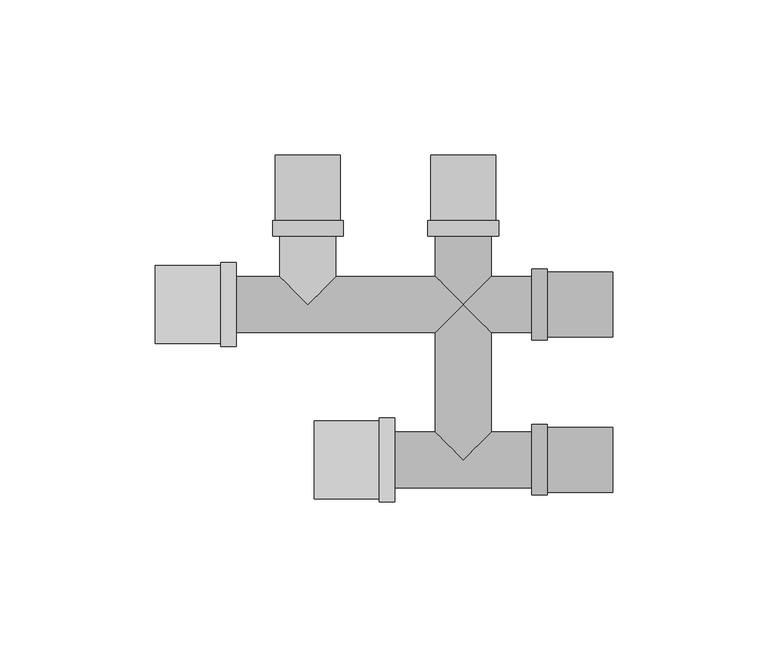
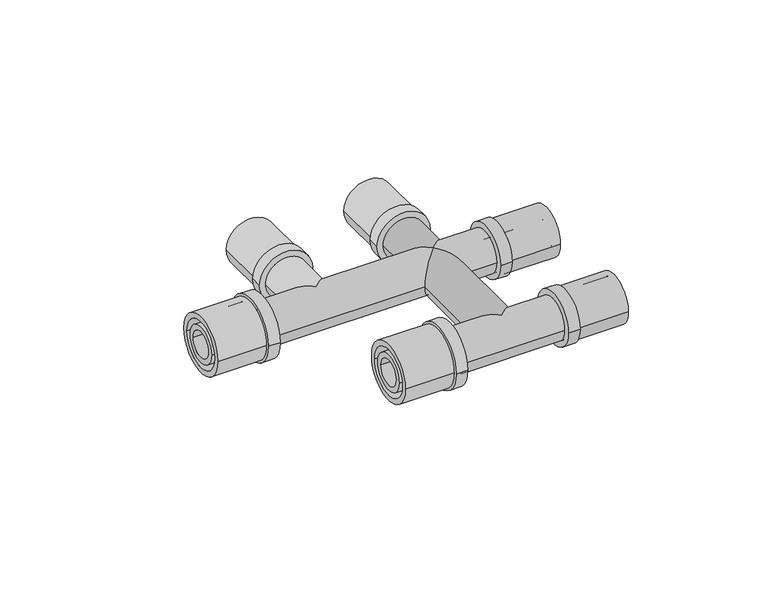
"""IFC4 building model written with IfcOpenShell, lengths in millimetres: pipe fitting geometry, PIF_Tigris_Crossfitting_Wavin_(multiport) : Tigris M5 Crossfitting 20x16x16."""

from ifc_helpers import new_model, si_unit, point, frame, frame_2d, origin, origin_2d, place, context, project, spatial, circle_curve, ellipse_curve, trimmed, segment, composite_curve, outline, extrude, source, transform, mapped, element, save
from ifc_brep_helpers import plane_surface, cylinder_surface, advanced_brep


def pipe_fitting_6edcd083(model_context):
    return source(origin(), model_context, "Body", "SolidModel", [
        extrude(outline(composite_curve([segment(trimmed(circle_curve(frame_2d((-50.0, 0.0)), 13.45), [point((-63.45, 0.0))], [point((-36.55, 0.0))], False, "CARTESIAN"), True, "CONTINUOUS"), segment(trimmed(circle_curve(frame_2d((-50.0, 0.0)), 13.45), [point((-36.55, 0.0))], [point((-63.45, 0.0))], False, "CARTESIAN"), True, "CONTINUOUS")], self_intersect=False)), frame((-27.0, 0.0, 0.0), z_axis=(1.0, 0.0, 0.0), x_axis=(0.0, 1.0, 0.0)), (0.0, 0.0, 1.0), 5.0),
        extrude(outline(composite_curve([segment(trimmed(circle_curve(frame_2d((-50.0, 0.0)), 12.5), [point((-62.5, 0.0))], [point((-37.5, 0.0))], False, "CARTESIAN"), True, "CONTINUOUS"), segment(trimmed(circle_curve(frame_2d((-50.0, 0.0)), 12.5), [point((-37.5, 0.0))], [point((-62.5, 0.0))], False, "CARTESIAN"), True, "CONTINUOUS")], self_intersect=False), holes=[composite_curve([segment(trimmed(circle_curve(frame_2d((-50.0, 0.0)), 10.2), [point((-60.2, 0.0))], [point((-39.8, 0.0))], True, "CARTESIAN"), True, "CONTINUOUS"), segment(trimmed(circle_curve(frame_2d((-50.0, 0.0)), 10.2), [point((-39.8, 0.0))], [point((-60.2, 0.0))], True, "CARTESIAN"), True, "CONTINUOUS")], self_intersect=False)]), frame((-48.0, 0.0, 0.0), z_axis=(1.0, 0.0, 0.0), x_axis=(0.0, 1.0, 0.0)), (0.0, 0.0, 1.0), 21.0),
        extrude(outline(composite_curve([segment(trimmed(circle_curve(frame_2d((-50.0, 0.0)), 7.9), [point((-57.9, 0.0))], [point((-42.1, 0.0))], False, "CARTESIAN"), True, "CONTINUOUS"), segment(trimmed(circle_curve(frame_2d((-50.0, 0.0)), 7.9), [point((-42.1, 0.0))], [point((-57.9, 0.0))], False, "CARTESIAN"), True, "CONTINUOUS")], self_intersect=False), holes=[composite_curve([segment(trimmed(circle_curve(frame_2d((-50.0, 0.0)), 5.6), [point((-55.6, 0.0))], [point((-44.4, 0.0))], True, "CARTESIAN"), True, "CONTINUOUS"), segment(trimmed(circle_curve(frame_2d((-50.0, 0.0)), 5.6), [point((-44.4, 0.0))], [point((-55.6, 0.0))], True, "CARTESIAN"), True, "CONTINUOUS")], self_intersect=False)]), frame((-48.0, 0.0, 0.0), z_axis=(1.0, 0.0, 0.0), x_axis=(0.0, 1.0, 0.0)), (0.0, 0.0, 1.0), 26.0),
        extrude(outline(composite_curve([segment(trimmed(circle_curve(frame_2d((-50.0, 0.0)), 11.35), [point((-38.65, 0.0))], [point((-61.35, 0.0))], False, "CARTESIAN"), True, "CONTINUOUS"), segment(trimmed(circle_curve(frame_2d((-50.0, 0.0)), 11.35), [point((-61.35, 0.0))], [point((-38.65, 0.0))], False, "CARTESIAN"), True, "CONTINUOUS")], self_intersect=False)), frame((22.0, 0.0, 0.0), z_axis=(1.0, 0.0, 0.0), x_axis=(0.0, 1.0, 0.0)), (0.0, 0.0, 1.0), 5.0),
        extrude(outline(composite_curve([segment(trimmed(circle_curve(frame_2d((-50.0, 0.0)), 10.5), [point((-39.5, 0.0))], [point((-60.5, 0.0))], False, "CARTESIAN"), True, "CONTINUOUS"), segment(trimmed(circle_curve(frame_2d((-50.0, 0.0)), 10.5), [point((-60.5, 0.0))], [point((-39.5, 0.0))], False, "CARTESIAN"), True, "CONTINUOUS")], self_intersect=False), holes=[composite_curve([segment(trimmed(circle_curve(frame_2d((-50.0, 0.0)), 8.2), [point((-41.8, 0.0))], [point((-58.2, 0.0))], True, "CARTESIAN"), True, "CONTINUOUS"), segment(trimmed(circle_curve(frame_2d((-50.0, 0.0)), 8.2), [point((-58.2, 0.0))], [point((-41.8, 0.0))], True, "CARTESIAN"), True, "CONTINUOUS")], self_intersect=False)]), frame((27.0, 0.0, 0.0), z_axis=(1.0, 0.0, 0.0), x_axis=(0.0, 1.0, 0.0)), (0.0, 0.0, 1.0), 21.0),
        extrude(outline(composite_curve([segment(trimmed(circle_curve(frame_2d((-50.0, 0.0)), 6.1), [point((-43.9, 0.0))], [point((-56.1, 0.0))], False, "CARTESIAN"), True, "CONTINUOUS"), segment(trimmed(circle_curve(frame_2d((-50.0, 0.0)), 6.1), [point((-56.1, 0.0))], [point((-43.9, 0.0))], False, "CARTESIAN"), True, "CONTINUOUS")], self_intersect=False), holes=[composite_curve([segment(trimmed(circle_curve(frame_2d((-50.0, 0.0)), 4.0), [point((-46.0, 0.0))], [point((-54.0, 0.0))], True, "CARTESIAN"), True, "CONTINUOUS"), segment(trimmed(circle_curve(frame_2d((-50.0, 0.0)), 4.0), [point((-54.0, 0.0))], [point((-46.0, 0.0))], True, "CARTESIAN"), True, "CONTINUOUS")], self_intersect=False)]), frame((23.0, 0.0, 0.0), z_axis=(1.0, 0.0, 0.0), x_axis=(0.0, 1.0, 0.0)), (0.0, 0.0, 1.0), 25.0),
        extrude(outline(composite_curve([segment(trimmed(circle_curve(origin_2d(), 11.35), [point((11.35, 0.0))], [point((-11.35, 0.0))], False, "CARTESIAN"), True, "CONTINUOUS"), segment(trimmed(circle_curve(origin_2d(), 11.35), [point((-11.35, 0.0))], [point((11.35, 0.0))], False, "CARTESIAN"), True, "CONTINUOUS")], self_intersect=False)), frame((22.0, 0.0, 0.0), z_axis=(1.0, 0.0, 0.0), x_axis=(0.0, 1.0, 0.0)), (0.0, 0.0, 1.0), 5.0),
        extrude(outline(composite_curve([segment(trimmed(circle_curve(origin_2d(), 10.5), [point((10.5, 0.0))], [point((-10.5, 0.0))], False, "CARTESIAN"), True, "CONTINUOUS"), segment(trimmed(circle_curve(origin_2d(), 10.5), [point((-10.5, 0.0))], [point((10.5, 0.0))], False, "CARTESIAN"), True, "CONTINUOUS")], self_intersect=False), holes=[composite_curve([segment(trimmed(circle_curve(origin_2d(), 8.2), [point((8.2, 0.0))], [point((-8.2, 0.0))], True, "CARTESIAN"), True, "CONTINUOUS"), segment(trimmed(circle_curve(origin_2d(), 8.2), [point((-8.2, 0.0))], [point((8.2, 0.0))], True, "CARTESIAN"), True, "CONTINUOUS")], self_intersect=False)]), frame((27.0, 0.0, 0.0), z_axis=(1.0, 0.0, 0.0), x_axis=(0.0, 1.0, 0.0)), (0.0, 0.0, 1.0), 21.0),
        extrude(outline(composite_curve([segment(trimmed(circle_curve(origin_2d(), 6.1), [point((6.1, 0.0))], [point((-6.1, 0.0))], False, "CARTESIAN"), True, "CONTINUOUS"), segment(trimmed(circle_curve(origin_2d(), 6.1), [point((-6.1, 0.0))], [point((6.1, 0.0))], False, "CARTESIAN"), True, "CONTINUOUS")], self_intersect=False), holes=[composite_curve([segment(trimmed(circle_curve(origin_2d(), 4.0), [point((4.0, 0.0))], [point((-4.0, 0.0))], True, "CARTESIAN"), True, "CONTINUOUS"), segment(trimmed(circle_curve(origin_2d(), 4.0), [point((-4.0, 0.0))], [point((4.0, 0.0))], True, "CARTESIAN"), True, "CONTINUOUS")], self_intersect=False)]), frame((23.0, 0.0, 0.0), z_axis=(1.0, 0.0, 0.0), x_axis=(0.0, 1.0, 0.0)), (0.0, 0.0, 1.0), 25.0),
        extrude(outline(composite_curve([segment(trimmed(circle_curve(origin_2d(), 11.35), [point((0.0, -11.35))], [point((0.0, 11.35))], False, "CARTESIAN"), True, "CONTINUOUS"), segment(trimmed(circle_curve(origin_2d(), 11.35), [point((0.0, 11.35))], [point((0.0, -11.35))], False, "CARTESIAN"), True, "CONTINUOUS")], self_intersect=False)), frame((0.0, 22.0, 0.0), z_axis=(0.0, 1.0, 0.0), x_axis=(0.0, 0.0, 1.0)), (0.0, 0.0, 1.0), 5.0),
        extrude(outline(composite_curve([segment(trimmed(circle_curve(origin_2d(), 10.5), [point((0.0, -10.5))], [point((0.0, 10.5))], False, "CARTESIAN"), True, "CONTINUOUS"), segment(trimmed(circle_curve(origin_2d(), 10.5), [point((0.0, 10.5))], [point((0.0, -10.5))], False, "CARTESIAN"), True, "CONTINUOUS")], self_intersect=False), holes=[composite_curve([segment(trimmed(circle_curve(origin_2d(), 8.2), [point((0.0, -8.2))], [point((0.0, 8.2))], True, "CARTESIAN"), True, "CONTINUOUS"), segment(trimmed(circle_curve(origin_2d(), 8.2), [point((0.0, 8.2))], [point((0.0, -8.2))], True, "CARTESIAN"), True, "CONTINUOUS")], self_intersect=False)]), frame((0.0, 27.0, 0.0), z_axis=(0.0, 1.0, 0.0), x_axis=(0.0, 0.0, 1.0)), (0.0, 0.0, 1.0), 21.0),
        extrude(outline(composite_curve([segment(trimmed(circle_curve(origin_2d(), 6.1), [point((0.0, -6.1))], [point((0.0, 6.1))], False, "CARTESIAN"), True, "CONTINUOUS"), segment(trimmed(circle_curve(origin_2d(), 6.1), [point((0.0, 6.1))], [point((0.0, -6.1))], False, "CARTESIAN"), True, "CONTINUOUS")], self_intersect=False), holes=[composite_curve([segment(trimmed(circle_curve(origin_2d(), 4.0), [point((0.0, -4.0))], [point((0.0, 4.0))], True, "CARTESIAN"), True, "CONTINUOUS"), segment(trimmed(circle_curve(origin_2d(), 4.0), [point((0.0, 4.0))], [point((0.0, -4.0))], True, "CARTESIAN"), True, "CONTINUOUS")], self_intersect=False)]), frame((0.0, 23.0, 0.0), z_axis=(0.0, 1.0, 0.0), x_axis=(0.0, 0.0, 1.0)), (0.0, 0.0, 1.0), 25.0),
        extrude(outline(composite_curve([segment(trimmed(circle_curve(frame_2d((0.0, -50.0)), 11.35), [point((0.0, -61.35))], [point((0.0, -38.65))], False, "CARTESIAN"), True, "CONTINUOUS"), segment(trimmed(circle_curve(frame_2d((0.0, -50.0)), 11.35), [point((0.0, -38.65))], [point((0.0, -61.35))], False, "CARTESIAN"), True, "CONTINUOUS")], self_intersect=False)), frame((0.0, 22.0, 0.0), z_axis=(0.0, 1.0, 0.0), x_axis=(0.0, 0.0, 1.0)), (0.0, 0.0, 1.0), 5.0),
        extrude(outline(composite_curve([segment(trimmed(circle_curve(frame_2d((0.0, -50.0)), 10.5), [point((0.0, -60.5))], [point((0.0, -39.5))], False, "CARTESIAN"), True, "CONTINUOUS"), segment(trimmed(circle_curve(frame_2d((0.0, -50.0)), 10.5), [point((0.0, -39.5))], [point((0.0, -60.5))], False, "CARTESIAN"), True, "CONTINUOUS")], self_intersect=False), holes=[composite_curve([segment(trimmed(circle_curve(frame_2d((0.0, -50.0)), 8.2), [point((0.0, -58.2))], [point((0.0, -41.8))], True, "CARTESIAN"), True, "CONTINUOUS"), segment(trimmed(circle_curve(frame_2d((0.0, -50.0)), 8.2), [point((0.0, -41.8))], [point((0.0, -58.2))], True, "CARTESIAN"), True, "CONTINUOUS")], self_intersect=False)]), frame((0.0, 27.0, 0.0), z_axis=(0.0, 1.0, 0.0), x_axis=(0.0, 0.0, 1.0)), (0.0, 0.0, 1.0), 21.0),
        extrude(outline(composite_curve([segment(trimmed(circle_curve(frame_2d((0.0, -50.0)), 6.1), [point((0.0, -56.1))], [point((0.0, -43.9))], False, "CARTESIAN"), True, "CONTINUOUS"), segment(trimmed(circle_curve(frame_2d((0.0, -50.0)), 6.1), [point((0.0, -43.9))], [point((0.0, -56.1))], False, "CARTESIAN"), True, "CONTINUOUS")], self_intersect=False), holes=[composite_curve([segment(trimmed(circle_curve(frame_2d((0.0, -50.0)), 4.0), [point((0.0, -54.0))], [point((0.0, -46.0))], True, "CARTESIAN"), True, "CONTINUOUS"), segment(trimmed(circle_curve(frame_2d((0.0, -50.0)), 4.0), [point((0.0, -46.0))], [point((0.0, -54.0))], True, "CARTESIAN"), True, "CONTINUOUS")], self_intersect=False)]), frame((0.0, 23.0, 0.0), z_axis=(0.0, 1.0, 0.0), x_axis=(0.0, 0.0, 1.0)), (0.0, 0.0, 1.0), 25.0),
        extrude(outline(composite_curve([segment(trimmed(circle_curve(origin_2d(), 13.45), [point((-13.45, 0.0))], [point((13.45, 0.0))], False, "CARTESIAN"), True, "CONTINUOUS"), segment(trimmed(circle_curve(origin_2d(), 13.45), [point((13.45, 0.0))], [point((-13.45, 0.0))], False, "CARTESIAN"), True, "CONTINUOUS")], self_intersect=False)), frame((-78.0, 0.0, 0.0), z_axis=(1.0, 0.0, 0.0), x_axis=(0.0, 1.0, 0.0)), (0.0, 0.0, 1.0), 5.0),
        extrude(outline(composite_curve([segment(trimmed(circle_curve(origin_2d(), 12.5), [point((-12.5, 0.0))], [point((12.5, 0.0))], False, "CARTESIAN"), True, "CONTINUOUS"), segment(trimmed(circle_curve(origin_2d(), 12.5), [point((12.5, 0.0))], [point((-12.5, 0.0))], False, "CARTESIAN"), True, "CONTINUOUS")], self_intersect=False), holes=[composite_curve([segment(trimmed(circle_curve(origin_2d(), 10.2), [point((-10.2, 0.0))], [point((10.2, 0.0))], True, "CARTESIAN"), True, "CONTINUOUS"), segment(trimmed(circle_curve(origin_2d(), 10.2), [point((10.2, 0.0))], [point((-10.2, 0.0))], True, "CARTESIAN"), True, "CONTINUOUS")], self_intersect=False)]), frame((-99.0, 0.0, 0.0), z_axis=(1.0, 0.0, 0.0), x_axis=(0.0, 1.0, 0.0)), (0.0, 0.0, 1.0), 21.0),
        extrude(outline(composite_curve([segment(trimmed(circle_curve(origin_2d(), 7.9), [point((-7.9, 0.0))], [point((7.9, 0.0))], False, "CARTESIAN"), True, "CONTINUOUS"), segment(trimmed(circle_curve(origin_2d(), 7.9), [point((7.9, 0.0))], [point((-7.9, 0.0))], False, "CARTESIAN"), True, "CONTINUOUS")], self_intersect=False), holes=[composite_curve([segment(trimmed(circle_curve(origin_2d(), 5.6), [point((-5.6, 0.0))], [point((5.6, 0.0))], True, "CARTESIAN"), True, "CONTINUOUS"), segment(trimmed(circle_curve(origin_2d(), 5.6), [point((5.6, 0.0))], [point((-5.6, 0.0))], True, "CARTESIAN"), True, "CONTINUOUS")], self_intersect=False)]), frame((-99.0, 0.0, 0.0), z_axis=(1.0, 0.0, 0.0), x_axis=(0.0, 1.0, 0.0)), (0.0, 0.0, 1.0), 26.0),
        advanced_brep(
        [(-41.0, 23.0, 0.0), (-59.0, 23.0, 0.0), (-59.0, 9.0, 0.0), (-50.0, 0.0, 9.0), (-41.0, 9.0, 0.0), (-50.0, 0.0, -9.0), (-73.0, -9.0, 0.0), (-73.0, 9.0, 0.0), (23.0, -9.0, 0.0), (23.0, 9.0, 0.0), (-9.0, -9.0, 0.0), (0.0, 0.0, 9.0), (-9.0, 9.0, 0.0), (9.0, 9.0, 0.0), (9.0, -9.0, 0.0), (0.0, 0.0, -9.0), (-9.0, 23.0, 0.0), (9.0, 23.0, 0.0), (-9.0, -41.0, 0.0), (0.0, -50.0, 9.0), (9.0, -41.0, 0.0), (0.0, -50.0, -9.0), (-22.0, -59.0, 0.0), (-22.0, -41.0, 0.0), (23.0, -59.0, 0.0), (23.0, -41.0, 0.0)],
        [
            (0, 1, circle_curve(frame((-50.0, 23.0, 0.0), z_axis=(0.0, 1.0, 0.0), x_axis=(-1.0, 0.0, 0.0)), 9.0)),
            (1, 0, circle_curve(frame((-50.0, 23.0, 0.0), z_axis=(0.0, 1.0, 0.0), x_axis=(-1.0, 0.0, 0.0)), 9.0)),
            (1, 2),
            (2, 3, ellipse_curve(frame((-50.0, 0.0, 0.0), z_axis=(0.7071067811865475, 0.7071067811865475, 0.0), x_axis=(0.7071067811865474, -0.7071067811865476, 0.0)), 12.7279221, 9.0)),
            (3, 4, ellipse_curve(frame((-50.0, 0.0, 0.0), z_axis=(-0.7071067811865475, 0.7071067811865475, 0.0), x_axis=(-0.7071067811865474, -0.7071067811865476, 0.0)), 12.7279221, 9.0)),
            (4, 0),
            (4, 5, ellipse_curve(frame((-50.0, 0.0, 0.0), z_axis=(-0.7071067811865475, 0.7071067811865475, 0.0), x_axis=(-0.7071067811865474, -0.7071067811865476, 0.0)), 12.7279221, 9.0)),
            (5, 2, ellipse_curve(frame((-50.0, 0.0, 0.0), z_axis=(0.7071067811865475, 0.7071067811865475, 0.0), x_axis=(0.7071067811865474, -0.7071067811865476, 0.0)), 12.7279221, 9.0)),
            (6, 7, circle_curve(frame((-73.0, 0.0, 0.0), z_axis=(-1.0, 0.0, 0.0), x_axis=(0.0, 1.0, 0.0)), 9.0)),
            (7, 6, circle_curve(frame((-73.0, 0.0, 0.0), z_axis=(-1.0, 0.0, 0.0), x_axis=(0.0, 1.0, 0.0)), 9.0)),
            (8, 9, circle_curve(frame((23.0, 0.0, 0.0), z_axis=(1.0, 0.0, 0.0), x_axis=(0.0, 1.0, 0.0)), 9.0)),
            (9, 8, circle_curve(frame((23.0, 0.0, 0.0), z_axis=(1.0, 0.0, 0.0), x_axis=(0.0, 1.0, 0.0)), 9.0)),
            (6, 10),
            (10, 11, ellipse_curve(frame((0.0, 0.0, 0.0), z_axis=(-0.7071067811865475, 0.7071067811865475, 0.0), x_axis=(-0.7071067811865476, -0.7071067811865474, 0.0)), 12.7279221, 9.0)),
            (11, 12, ellipse_curve(frame((0.0, 0.0, 0.0), z_axis=(-0.7071067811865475, -0.7071067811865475, 0.0), x_axis=(-0.7071067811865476, 0.7071067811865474, 0.0)), 12.7279221, 9.0)),
            (12, 4),
            (2, 7),
            (9, 13),
            (13, 11, ellipse_curve(frame((0.0, 0.0, 0.0), z_axis=(0.7071067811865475, -0.7071067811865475, 0.0), x_axis=(-0.7071067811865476, -0.7071067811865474, 0.0)), 12.7279221, 9.0)),
            (11, 14, ellipse_curve(frame((0.0, 0.0, 0.0), z_axis=(0.7071067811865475, 0.7071067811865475, 0.0), x_axis=(-0.7071067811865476, 0.7071067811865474, 0.0)), 12.7279221, 9.0)),
            (14, 8),
            (12, 15, ellipse_curve(frame((0.0, 0.0, 0.0), z_axis=(-0.7071067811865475, -0.7071067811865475, 0.0), x_axis=(-0.7071067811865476, 0.7071067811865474, 0.0)), 12.7279221, 9.0)),
            (15, 10, ellipse_curve(frame((0.0, 0.0, 0.0), z_axis=(-0.7071067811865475, 0.7071067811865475, 0.0), x_axis=(-0.7071067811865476, -0.7071067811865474, 0.0)), 12.7279221, 9.0)),
            (14, 15, ellipse_curve(frame((0.0, 0.0, 0.0), z_axis=(0.7071067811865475, 0.7071067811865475, 0.0), x_axis=(-0.7071067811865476, 0.7071067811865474, 0.0)), 12.7279221, 9.0)),
            (15, 13, ellipse_curve(frame((0.0, 0.0, 0.0), z_axis=(0.7071067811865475, -0.7071067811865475, 0.0), x_axis=(-0.7071067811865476, -0.7071067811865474, 0.0)), 12.7279221, 9.0)),
            (16, 17, circle_curve(frame((0.0, 23.0, 0.0), z_axis=(0.0, 1.0, 0.0), x_axis=(1.0, 0.0, 0.0)), 9.0)),
            (17, 16, circle_curve(frame((0.0, 23.0, 0.0), z_axis=(0.0, 1.0, 0.0), x_axis=(1.0, 0.0, 0.0)), 9.0)),
            (10, 18),
            (18, 19, ellipse_curve(frame((0.0, -50.0, 0.0), z_axis=(0.7071067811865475, 0.7071067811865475, 0.0), x_axis=(-0.7071067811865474, 0.7071067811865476, 0.0)), 12.7279221, 9.0)),
            (19, 20, ellipse_curve(frame((0.0, -50.0, 0.0), z_axis=(-0.7071067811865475, 0.7071067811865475, 0.0), x_axis=(0.7071067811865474, 0.7071067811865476, 0.0)), 12.7279221, 9.0)),
            (20, 14),
            (16, 12),
            (13, 17),
            (20, 21, ellipse_curve(frame((0.0, -50.0, 0.0), z_axis=(-0.7071067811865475, 0.7071067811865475, 0.0), x_axis=(0.7071067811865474, 0.7071067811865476, 0.0)), 12.7279221, 9.0)),
            (21, 18, ellipse_curve(frame((0.0, -50.0, 0.0), z_axis=(0.7071067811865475, 0.7071067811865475, 0.0), x_axis=(-0.7071067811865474, 0.7071067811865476, 0.0)), 12.7279221, 9.0)),
            (22, 23, circle_curve(frame((-22.0, -50.0, 0.0), z_axis=(-1.0, 0.0, 0.0), x_axis=(0.0, 1.0, 0.0)), 9.0)),
            (23, 22, circle_curve(frame((-22.0, -50.0, 0.0), z_axis=(-1.0, 0.0, 0.0), x_axis=(0.0, 1.0, 0.0)), 9.0)),
            (24, 25, circle_curve(frame((23.0, -50.0, 0.0), z_axis=(1.0, 0.0, 0.0), x_axis=(0.0, 1.0, 0.0)), 9.0)),
            (25, 24, circle_curve(frame((23.0, -50.0, 0.0), z_axis=(1.0, 0.0, 0.0), x_axis=(0.0, 1.0, 0.0)), 9.0)),
            (22, 24),
            (25, 20),
            (18, 23),
        ],
        [
            plane_surface(frame((-50.0, 23.0, 0.0), z_axis=(0.0, 1.0, 0.0), x_axis=(0.0, 0.0, 1.0))),
            cylinder_surface(frame((-50.0, 0.0, 0.0), z_axis=(0.0, -1.0, 0.0), x_axis=(-1.0, 0.0, 0.0)), 9.0),
            plane_surface(frame((-73.0, 0.0, 0.0), z_axis=(-1.0, 0.0, 0.0), x_axis=(0.0, 0.0, 1.0))),
            plane_surface(frame((23.0, 0.0, 0.0), z_axis=(1.0, 0.0, 0.0), x_axis=(0.0, 0.0, 1.0))),
            cylinder_surface(frame((-73.0, 0.0, 0.0), z_axis=(-1.0, 0.0, 0.0), x_axis=(0.0, 1.0, 0.0)), 9.0),
            plane_surface(frame((0.0, 23.0, 0.0), z_axis=(0.0, 1.0, 0.0), x_axis=(0.0, 0.0, 1.0))),
            cylinder_surface(frame((0.0, 23.0, 0.0), z_axis=(0.0, 1.0, 0.0), x_axis=(1.0, 0.0, 0.0)), 9.0),
            plane_surface(frame((-22.0, -50.0, 0.0), z_axis=(-1.0, 0.0, 0.0), x_axis=(0.0, 0.0, 1.0))),
            plane_surface(frame((23.0, -50.0, 0.0), z_axis=(1.0, 0.0, 0.0), x_axis=(0.0, 0.0, 1.0))),
            cylinder_surface(frame((-22.0, -50.0, 0.0), z_axis=(-1.0, 0.0, 0.0), x_axis=(0.0, 1.0, 0.0)), 9.0),
        ],
        [
            (0, [[1, 2]]),
            (1, [[-2, 3, 4, 5, 6]]),
            (1, [[-1, -6, 7, 8, -3]]),
            (2, [[9, 10]]),
            (3, [[11, 12]]),
            (4, [[-9, 13, 14, 15, 16, -5, -4, 17]]),
            (4, [[-12, 18, 19, 20, 21]]),
            (4, [[-10, -17, -8, -7, -16, 22, 23, -13]]),
            (4, [[-11, -21, 24, 25, -18]]),
            (5, [[26, 27]]),
            (6, [[-20, -14, 28, 29, 30, 31]]),
            (6, [[-26, 32, -15, -19, 33]]),
            (6, [[-24, -31, 34, 35, -28, -23]]),
            (6, [[-27, -33, -25, -22, -32]]),
            (7, [[36, 37]]),
            (8, [[38, 39]]),
            (9, [[-36, 40, -39, 41, -30, -29, 42]]),
            (9, [[-37, -42, -35, -34, -41, -38, -40]]),
        ],
    ),
    ])


if __name__ == "__main__":
    model = new_model("IFC4")
    model_context = context("Model", 3, world=origin())
    ifc_project = project(units=[si_unit("LENGTHUNIT", "METRE", prefix="MILLI")], contexts=[model_context])
    site = spatial("IfcSite", under=ifc_project)
    building = spatial("IfcBuilding", under=site)
    placement = place(None, origin())
    pipe_fitting_shape = pipe_fitting_6edcd083(model_context)
    element("IfcPipeFitting", 1, ObjectType="PIF_Tigris_Crossfitting_Wavin_(multiport) : Tigris M5 Crossfitting 20x16x16", at=placement, inside=building, context=model_context, shape_type="MappedRepresentation", body=[
        mapped(pipe_fitting_shape, transform((0.0, 0.0, 0.0), x_axis=(1.0, 0.0, 0.0), y_axis=(0.0, 1.0, 0.0), z_axis=(0.0, 0.0, 1.0))),
    ])
    save(model, "model.ifc")
